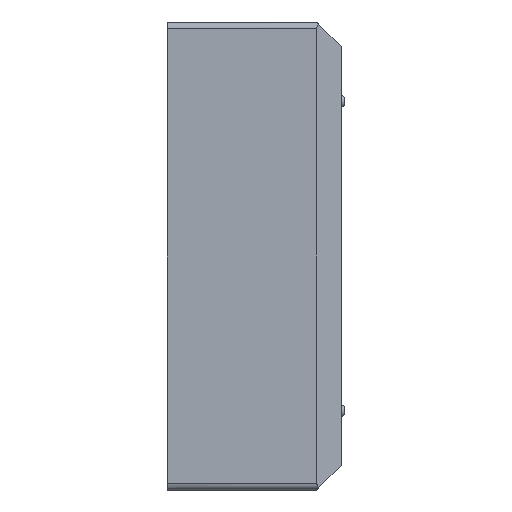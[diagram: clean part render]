
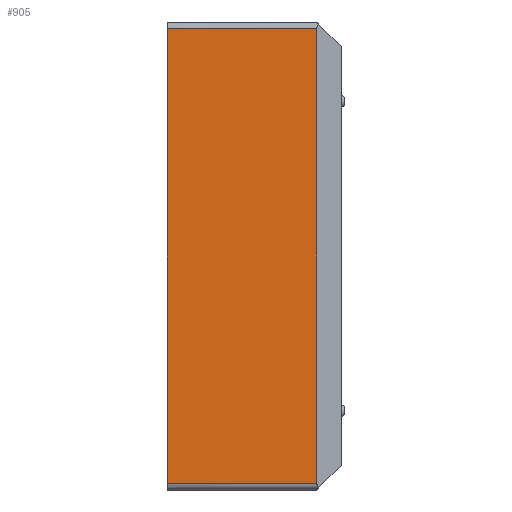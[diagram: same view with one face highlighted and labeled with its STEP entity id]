
A CAD part, left-side view. The second image highlights one B-rep face of the part: STEP entity #905.
In plain terms, the highlighted planar face has unit normal (-1, 0, 0).
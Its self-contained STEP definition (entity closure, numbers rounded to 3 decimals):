
#88 = EDGE_LOOP ( 'NONE', ( #1768, #1809, #5025, #1784 ) ) ;
#124 = LINE ( 'NONE', #4898, #252 ) ;
#252 = VECTOR ( 'NONE', #4892, 1000. ) ;
#299 = VECTOR ( 'NONE', #2992, 1000. ) ;
#548 = DIRECTION ( 'NONE',  ( 0., 0., 1. ) ) ;
#579 = LINE ( 'NONE', #2933, #299 ) ;
#647 = DIRECTION ( 'NONE',  ( -1., 0., 0. ) ) ;
#737 = PLANE ( 'NONE',  #1172 ) ;
#905 = ADVANCED_FACE ( 'NONE', ( #1983 ), #737, .T. ) ;
#1172 = AXIS2_PLACEMENT_3D ( 'NONE', #2954, #647, #548 ) ;
#1566 = VERTEX_POINT ( 'NONE', #5192 ) ;
#1636 = VERTEX_POINT ( 'NONE', #3698 ) ;
#1768 = ORIENTED_EDGE ( 'NONE', *, *, #1929, .F. ) ;
#1784 = ORIENTED_EDGE ( 'NONE', *, *, #2263, .F. ) ;
#1809 = ORIENTED_EDGE ( 'NONE', *, *, #2074, .T. ) ;
#1929 = EDGE_CURVE ( 'NONE', #4600, #3914, #124, .T. ) ;
#1983 = FACE_OUTER_BOUND ( 'NONE', #88, .T. ) ;
#2074 = EDGE_CURVE ( 'NONE', #4600, #1636, #4701, .T. ) ;
#2131 = CARTESIAN_POINT ( 'NONE',  ( -62.75, -21.5, -32.625 ) ) ;
#2263 = EDGE_CURVE ( 'NONE', #3914, #1566, #2995, .T. ) ;
#2865 = VECTOR ( 'NONE', #3236, 1000. ) ;
#2933 = CARTESIAN_POINT ( 'NONE',  ( -62.75, -25., 32.625 ) ) ;
#2954 = CARTESIAN_POINT ( 'NONE',  ( -62.75, -25., -32.625 ) ) ;
#2992 = DIRECTION ( 'NONE',  ( 0., 1., 0. ) ) ;
#2995 = LINE ( 'NONE', #3240, #2865 ) ;
#3236 = DIRECTION ( 'NONE',  ( 0., 0., 1. ) ) ;
#3240 = CARTESIAN_POINT ( 'NONE',  ( -62.75, 0., -32.625 ) ) ;
#3698 = CARTESIAN_POINT ( 'NONE',  ( -62.75, -21.5, 32.625 ) ) ;
#3914 = VERTEX_POINT ( 'NONE', #4533 ) ;
#4113 = CARTESIAN_POINT ( 'NONE',  ( -62.75, -21.5, -32.625 ) ) ;
#4167 = DIRECTION ( 'NONE',  ( 0., 0., 1. ) ) ;
#4386 = EDGE_CURVE ( 'NONE', #1636, #1566, #579, .T. ) ;
#4533 = CARTESIAN_POINT ( 'NONE',  ( -62.75, 0., -32.625 ) ) ;
#4600 = VERTEX_POINT ( 'NONE', #2131 ) ;
#4701 = LINE ( 'NONE', #4113, #4958 ) ;
#4892 = DIRECTION ( 'NONE',  ( 0., 1., 0. ) ) ;
#4898 = CARTESIAN_POINT ( 'NONE',  ( -62.75, -25., -32.625 ) ) ;
#4958 = VECTOR ( 'NONE', #4167, 1000. ) ;
#5025 = ORIENTED_EDGE ( 'NONE', *, *, #4386, .T. ) ;
#5192 = CARTESIAN_POINT ( 'NONE',  ( -62.75, 0., 32.625 ) ) ;
